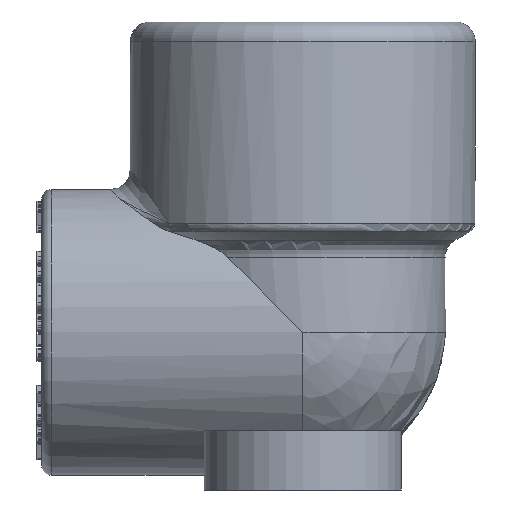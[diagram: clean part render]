
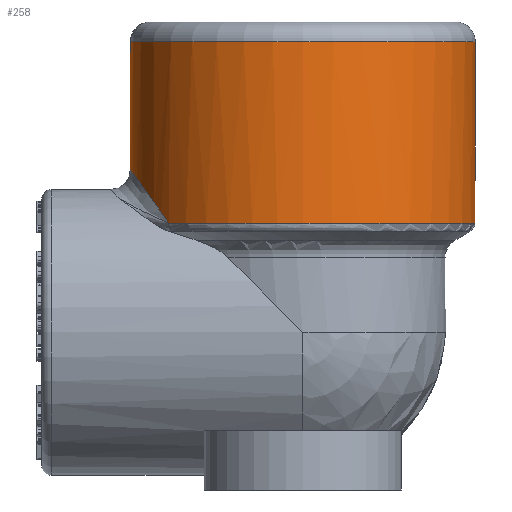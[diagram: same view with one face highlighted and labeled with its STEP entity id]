
A CAD part, left-side view. The second image highlights one B-rep face of the part: STEP entity #258.
In plain terms, the highlighted cylindrical face has radius 17.5 mm (diameter 35 mm), a full revolution.
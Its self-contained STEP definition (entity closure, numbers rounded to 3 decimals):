
#258=ADVANCED_FACE('',(#1131,#1133),#1135,.T.);
#1131=FACE_BOUND('',#1132,.T.);
#1132=EDGE_LOOP('',(#6767,#6768,#6769));
#1133=FACE_OUTER_BOUND('',#1134,.T.);
#1134=EDGE_LOOP('',(#6770));
#1135=CYLINDRICAL_SURFACE('',#1136,17.5);
#1136=AXIS2_PLACEMENT_3D('',#1137,#1138,#1139);
#1137=CARTESIAN_POINT('',(0.,0.,10.5));
#1138=DIRECTION('',(0.,0.,1.));
#1139=DIRECTION('',(-1.,0.,0.));
#6767=ORIENTED_EDGE('',*,*,#11872,.T.);
#6768=ORIENTED_EDGE('',*,*,#11873,.F.);
#6769=ORIENTED_EDGE('',*,*,#11874,.F.);
#6770=ORIENTED_EDGE('',*,*,#11843,.F.);
#11843=EDGE_CURVE('',#13850,#13850,#13851,.T.);
#11872=EDGE_CURVE('',#13907,#13908,#13909,.T.);
#11873=EDGE_CURVE('',#13910,#13908,#13911,.T.);
#11874=EDGE_CURVE('',#13907,#13910,#13912,.T.);
#13850=VERTEX_POINT('',#17227);
#13851=CIRCLE('',#17228,17.5);
#13907=VERTEX_POINT('',#17359);
#13908=VERTEX_POINT('',#17360);
#13909=B_SPLINE_CURVE_WITH_KNOTS('',3,
(#17361,#17362,#17363,#17364,#17365,#17366,#17367,#17368,#17369,#17370,#17371,#17372,
#17373,#17374,#17375,#17376,#17377,#17378,#17379,#17380,#17381,#17382,#17383,#17384,
#17385,#17386,#17387),
.UNSPECIFIED.,.F.,.F.,
(4,1,1,1,1,1,1,1,1,1,1,1,1,1,1,1,1,1,1,1,1,1,1,1,4),
(0.,0.066,0.122,0.169,0.219,0.267,
0.313,0.35,0.387,0.42,0.456,
0.489,0.523,0.557,0.593,0.628,
0.664,0.702,0.74,0.778,0.823,
0.873,0.924,0.965,1.),
.UNSPECIFIED.);
#13910=VERTEX_POINT('',#17388);
#13911=CIRCLE('',#17389,17.5);
#13912=CIRCLE('',#17393,17.5);
#17227=CARTESIAN_POINT('',(-17.5,0.,29.5));
#17228=AXIS2_PLACEMENT_3D('',#17229,#17230,#17231);
#17229=CARTESIAN_POINT('',(0.,0.,29.5));
#17230=DIRECTION('',(0.,0.,1.));
#17231=DIRECTION('',(-1.,0.,0.));
#17359=CARTESIAN_POINT('',(10.975,13.631,11.077));
#17360=CARTESIAN_POINT('',(-10.975,13.631,11.077));
#17361=CARTESIAN_POINT('',(10.975,13.631,11.077));
#17362=CARTESIAN_POINT('',(10.644,13.897,11.484));
#17363=CARTESIAN_POINT('',(9.992,14.386,12.211));
#17364=CARTESIAN_POINT('',(8.987,15.03,13.137));
#17365=CARTESIAN_POINT('',(7.994,15.581,13.909));
#17366=CARTESIAN_POINT('',(6.988,16.058,14.568));
#17367=CARTESIAN_POINT('',(5.922,16.48,15.141));
#17368=CARTESIAN_POINT('',(4.897,16.812,15.587));
#17369=CARTESIAN_POINT('',(3.917,17.065,15.924));
#17370=CARTESIAN_POINT('',(3.011,17.247,16.166));
#17371=CARTESIAN_POINT('',(2.1,17.381,16.344));
#17372=CARTESIAN_POINT('',(1.205,17.466,16.456));
#17373=CARTESIAN_POINT('',(0.288,17.505,16.507));
#17374=CARTESIAN_POINT('',(-0.61,17.497,16.496));
#17375=CARTESIAN_POINT('',(-1.53,17.441,16.422));
#17376=CARTESIAN_POINT('',(-2.449,17.336,16.284));
#17377=CARTESIAN_POINT('',(-3.372,17.18,16.078));
#17378=CARTESIAN_POINT('',(-4.284,16.976,15.806));
#17379=CARTESIAN_POINT('',(-5.18,16.724,15.469));
#17380=CARTESIAN_POINT('',(-6.06,16.426,15.067));
#17381=CARTESIAN_POINT('',(-6.954,16.069,14.582));
#17382=CARTESIAN_POINT('',(-7.886,15.635,13.985));
#17383=CARTESIAN_POINT('',(-8.839,15.117,13.26));
#17384=CARTESIAN_POINT('',(-9.696,14.579,12.489));
#17385=CARTESIAN_POINT('',(-10.405,14.078,11.753));
#17386=CARTESIAN_POINT('',(-10.8,13.772,11.292));
#17387=CARTESIAN_POINT('',(-10.975,13.631,11.077));
#17388=CARTESIAN_POINT('',(-17.5,0.,11.077));
#17389=AXIS2_PLACEMENT_3D('',#17390,#17391,#17392);
#17390=CARTESIAN_POINT('',(0.,0.,11.077));
#17391=DIRECTION('',(0.,0.,-1.));
#17392=DIRECTION('',(-1.,0.,0.));
#17393=AXIS2_PLACEMENT_3D('',#17394,#17395,#17396);
#17394=CARTESIAN_POINT('',(0.,0.,11.077));
#17395=DIRECTION('',(0.,0.,-1.));
#17396=DIRECTION('',(0.627,0.779,0.));
